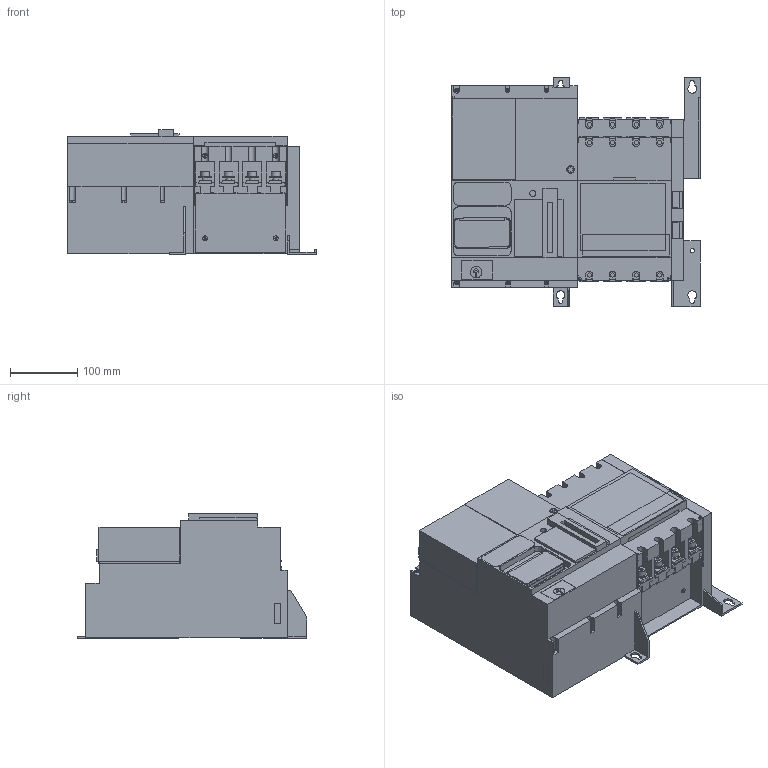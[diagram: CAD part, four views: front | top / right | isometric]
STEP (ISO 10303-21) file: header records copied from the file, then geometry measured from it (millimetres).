
FILE_DESCRIPTION((''),'2;1');
FILE_NAME('TA25D4S2504TPE_3D-SIMPLIFIED_ASM','2022-11-30T23:06:54',('SESA654545'),('Schneider-Electric'),'CREO PARAMETRIC BY PTC INC, 2021284','CREO PARAMETRIC BY PTC INC, 2021284','');
FILE_SCHEMA(('AP242_MANAGED_MODEL_BASED_3D_ENGINEERING_MIM_LF { 1 0 10303 442 1 1 4 }'));
Products named in the file (6): EMPTYNODE_1669828809264_ASM_1; R3-4P-ROTARY_1_1; R3-4P-ROTARY_1_ASM; R3-4P-ROTARY-V03-3D_ASM_1_ASM; 1669828808572_ASM_1_ASM; TA25D4S2504TPE_3D-SIMPLIFIED_ASM
Assembly tree (5 placements, depth 5):
  TA25D4S2504TPE_3D-SIMPLIFIED_ASM
    1669828808572_ASM_1_ASM
      EMPTYNODE_1669828809264_ASM_1
      R3-4P-ROTARY-V03-3D_ASM_1_ASM
        R3-4P-ROTARY_1_ASM
          R3-4P-ROTARY_1_1
Bounding box: 370 x 341 x 185.8 mm (x, y, z)
Volume: 13924257.8 mm3; surface area: 659303.2 mm2
Topology: 1 solids, 1 shells, 1638 faces, 4562 edges, 3080 vertices
Faces by surface type: plane 1285, cylinder 340, extrusion 13
Entity records: 71676 total; most frequent: CARTESIAN_POINT 10719, ORIENTED_EDGE 9124, DIRECTION 8354, PRESENTATION_STYLE_ASSIGNMENT 5184, STYLED_ITEM 4564, CURVE_STYLE 4562, EDGE_CURVE 4562, VECTOR 3684
